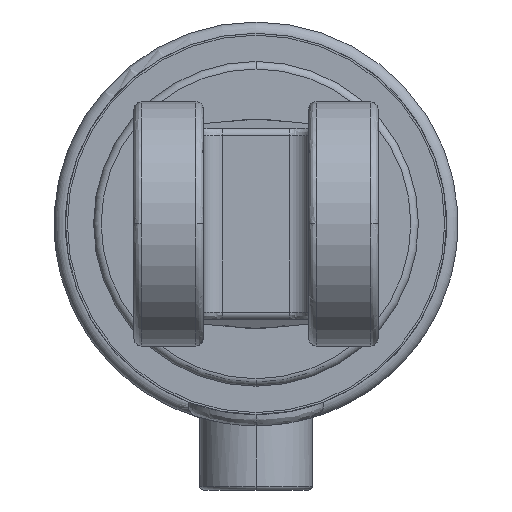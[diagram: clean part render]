
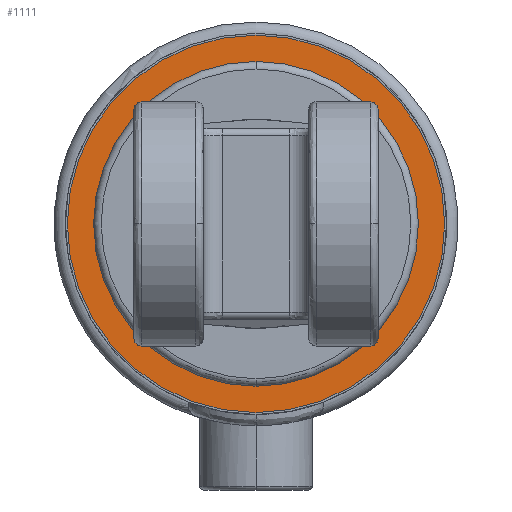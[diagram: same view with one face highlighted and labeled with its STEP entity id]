
A CAD part, left-side view. The second image highlights one B-rep face of the part: STEP entity #1111.
In plain terms, the highlighted planar face has unit normal (-1, 0, 0).
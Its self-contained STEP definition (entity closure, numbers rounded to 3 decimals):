
#306 = CIRCLE ( 'NONE', #8260, 43.2 ) ;
#387 = VERTEX_POINT ( 'NONE', #9417 ) ;
#458 = EDGE_LOOP ( 'NONE', ( #8666, #3282 ) ) ;
#634 = VERTEX_POINT ( 'NONE', #728 ) ;
#728 = CARTESIAN_POINT ( 'NONE',  ( -570.005, 0., -43.2 ) ) ;
#751 = DIRECTION ( 'NONE',  ( -1., 0., 0. ) ) ;
#784 = EDGE_LOOP ( 'NONE', ( #1590, #2587 ) ) ;
#891 = EDGE_CURVE ( 'NONE', #7848, #387, #2570, .T. ) ;
#893 = CARTESIAN_POINT ( 'NONE',  ( -570.005, 0., 0. ) ) ;
#1111 = ADVANCED_FACE ( 'NONE', ( #4117, #10820 ), #7740, .T. ) ;
#1578 = CARTESIAN_POINT ( 'NONE',  ( -570.005, 0., -50.2 ) ) ;
#1590 = ORIENTED_EDGE ( 'NONE', *, *, #11254, .F. ) ;
#1751 = VERTEX_POINT ( 'NONE', #7700 ) ;
#1764 = DIRECTION ( 'NONE',  ( 0., 0., 1. ) ) ;
#2570 = CIRCLE ( 'NONE', #3524, 50.2 ) ;
#2587 = ORIENTED_EDGE ( 'NONE', *, *, #4059, .F. ) ;
#2598 = DIRECTION ( 'NONE',  ( -1., 0., 0. ) ) ;
#2682 = DIRECTION ( 'NONE',  ( -1., 0., 0. ) ) ;
#3071 = DIRECTION ( 'NONE',  ( -1., 0., 0. ) ) ;
#3282 = ORIENTED_EDGE ( 'NONE', *, *, #9268, .T. ) ;
#3337 = CARTESIAN_POINT ( 'NONE',  ( -570.005, 0., 50.2 ) ) ;
#3524 = AXIS2_PLACEMENT_3D ( 'NONE', #8348, #3071, #9237 ) ;
#4059 = EDGE_CURVE ( 'NONE', #634, #1751, #306, .T. ) ;
#4117 = FACE_OUTER_BOUND ( 'NONE', #458, .T. ) ;
#5765 = CIRCLE ( 'NONE', #10680, 43.2 ) ;
#6899 = DIRECTION ( 'NONE',  ( 0., 0., 1. ) ) ;
#7051 = DIRECTION ( 'NONE',  ( -1., 0., 0. ) ) ;
#7700 = CARTESIAN_POINT ( 'NONE',  ( -570.005, 0., 43.2 ) ) ;
#7740 = PLANE ( 'NONE',  #9425 ) ;
#7848 = VERTEX_POINT ( 'NONE', #3337 ) ;
#7880 = CARTESIAN_POINT ( 'NONE',  ( -570.005, 0., 0. ) ) ;
#7975 = CARTESIAN_POINT ( 'NONE',  ( -570.005, 0., 0. ) ) ;
#8260 = AXIS2_PLACEMENT_3D ( 'NONE', #893, #7051, #1764 ) ;
#8348 = CARTESIAN_POINT ( 'NONE',  ( -570.005, 0., 0. ) ) ;
#8666 = ORIENTED_EDGE ( 'NONE', *, *, #891, .T. ) ;
#8766 = DIRECTION ( 'NONE',  ( 0., 0., 1. ) ) ;
#8859 = DIRECTION ( 'NONE',  ( 0., 0., 1. ) ) ;
#9237 = DIRECTION ( 'NONE',  ( 0., 0., 1. ) ) ;
#9268 = EDGE_CURVE ( 'NONE', #387, #7848, #10983, .T. ) ;
#9417 = CARTESIAN_POINT ( 'NONE',  ( -570.005, 0., -50.2 ) ) ;
#9425 = AXIS2_PLACEMENT_3D ( 'NONE', #1578, #751, #6899 ) ;
#9662 = AXIS2_PLACEMENT_3D ( 'NONE', #7880, #2598, #8766 ) ;
#10680 = AXIS2_PLACEMENT_3D ( 'NONE', #7975, #2682, #8859 ) ;
#10820 = FACE_BOUND ( 'NONE', #784, .T. ) ;
#10983 = CIRCLE ( 'NONE', #9662, 50.2 ) ;
#11254 = EDGE_CURVE ( 'NONE', #1751, #634, #5765, .T. ) ;
